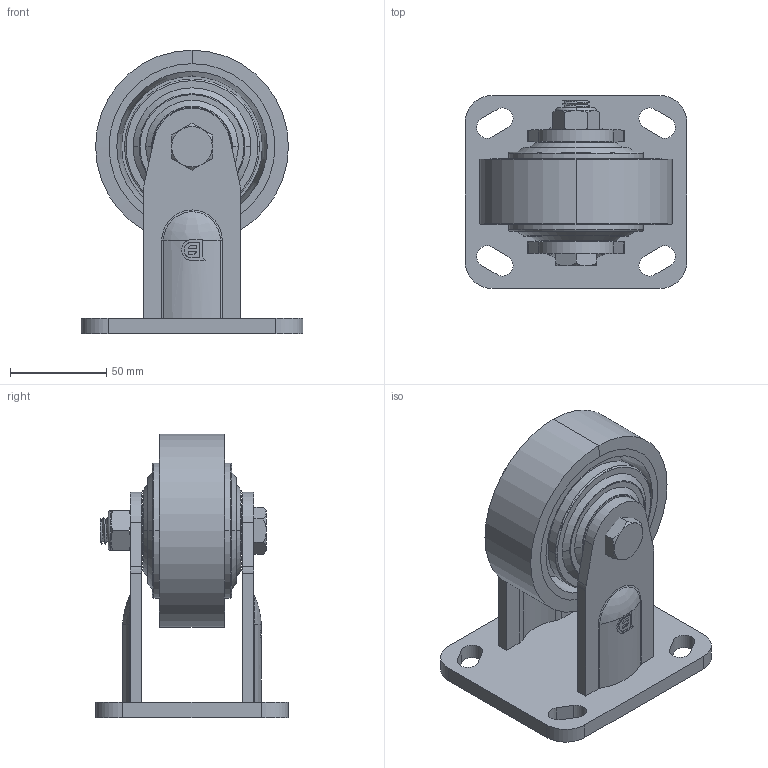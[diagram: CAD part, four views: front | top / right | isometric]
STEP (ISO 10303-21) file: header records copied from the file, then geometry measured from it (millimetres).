
FILE_DESCRIPTION((''),'2;1');
FILE_NAME('PRT0002','2025-04-19T10:37:23',('Administrator'),(''),'CREO PARAMETRIC BY PTC INC, 2022124','CREO PARAMETRIC BY PTC INC, 2022124','');
FILE_SCHEMA(('AP203_CONFIGURATION_CONTROLLED_3D_DESIGN_OF_MECHANICAL_PARTS_AND_ASSEMBLIES_MIM_LF { 1 0 10303 403 2 1 2 }'));
Length unit declared in the file: millimetre
Products named in the file (1): PRT0002
Bounding box: 115 x 100 x 147 mm (x, y, z)
Surface area: 108076.3 mm2 (no closed solid volume)
Topology: 0 solids, 25 shells, 197 faces, 543 edges, 382 vertices
Faces by surface type: plane 64, cylinder 59, cone 40, torus 24, bspline 10
Entity records: 10181 total; most frequent: CARTESIAN_POINT 3764, DIRECTION 1058, ORIENTED_EDGE 907, EDGE_CURVE 543, AXIS2_PLACEMENT_3D 431, VERTEX_POINT 382, EDGE_LOOP 236, CIRCLE 234
